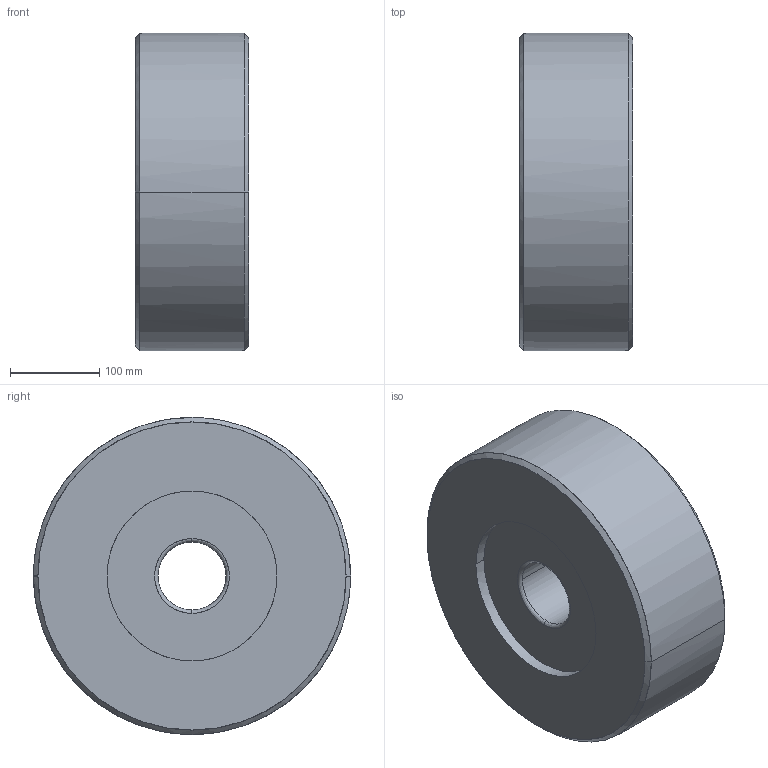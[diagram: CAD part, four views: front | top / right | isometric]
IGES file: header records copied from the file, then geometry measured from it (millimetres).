
Global section: native system: Kubotek KeyCreator; preprocessor: KCM Version 1.1.1442.0; author: KeyCreator User; organization: Self; date: 20170713.024555; units: inch
Bounding box: 127 x 355.6 x 355.6 mm (x, y, z)
Surface area: 363527.7 mm2 (no closed solid volume)
Topology: 0 solids, 0 shells, 20 faces, 128 edges, 128 vertices
Faces by surface type: bspline 20
